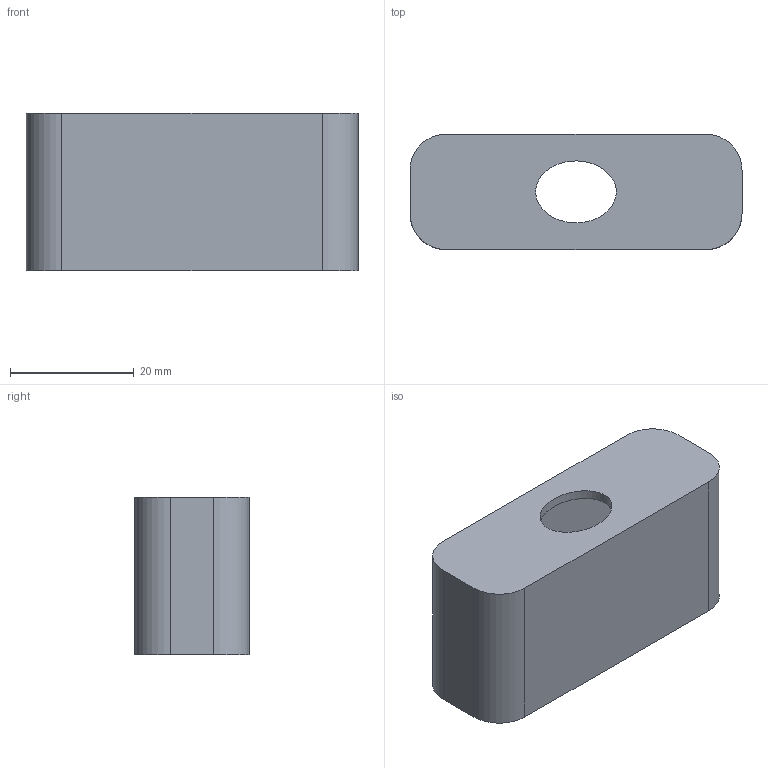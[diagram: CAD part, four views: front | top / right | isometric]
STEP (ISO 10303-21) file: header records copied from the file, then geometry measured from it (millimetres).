
FILE_DESCRIPTION(('Open CASCADE Model'),'2;1');
FILE_NAME('Open CASCADE Shape Model','2026-07-19T18:50:27',('Author'),( 'Open CASCADE'),'Open CASCADE STEP processor 7.9','Open CASCADE 7.9' ,'Unknown');
FILE_SCHEMA(('AUTOMOTIVE_DESIGN { 1 0 10303 214 1 1 1 1 }'));
Length unit declared in the file: millimetre
Products named in the file (1): Open CASCADE STEP translator 7.9 5
Bounding box: 53.6 x 18.6 x 25.5 mm (x, y, z)
Volume: 5976 mm3; surface area: 8214.2 mm2
Topology: 1 solids, 1 shells, 20 faces, 51 edges, 34 vertices
Faces by surface type: plane 11, cylinder 8, extrusion 1
Entity records: 2066 total; most frequent: CARTESIAN_POINT 1020, DIRECTION 195, VECTOR 108, LINE 107, ORIENTED_EDGE 102, PCURVE 102, DEFINITIONAL_REPRESENTATION 102, EDGE_CURVE 51
